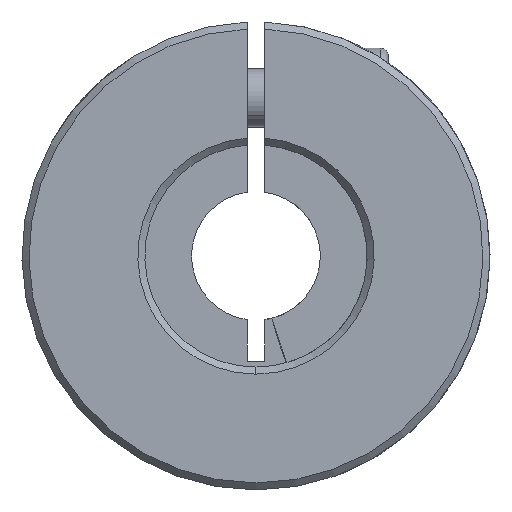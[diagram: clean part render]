
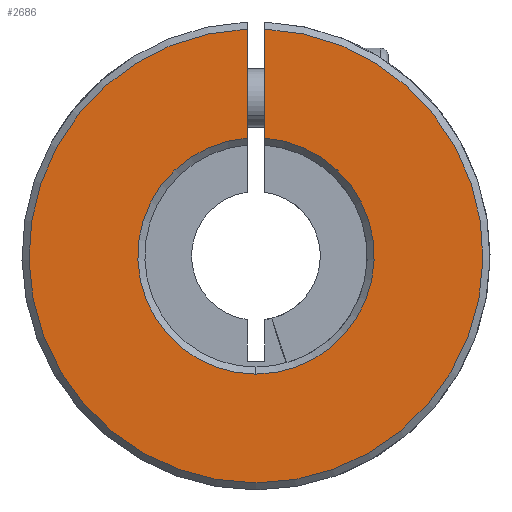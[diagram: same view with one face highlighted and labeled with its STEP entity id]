
A CAD part, front view. The second image highlights one B-rep face of the part: STEP entity #2686.
In plain terms, the highlighted planar face has unit normal (0, -1, 0).
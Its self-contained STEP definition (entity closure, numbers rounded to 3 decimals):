
#47 = DIRECTION ( 'NONE',  ( 0., -1., 0. ) ) ;
#62 = AXIS2_PLACEMENT_3D ( 'NONE', #1266, #5425, #1777 ) ;
#202 = ORIENTED_EDGE ( 'NONE', *, *, #5181, .T. ) ;
#386 = CIRCLE ( 'NONE', #1548, 10.1 ) ;
#488 = VERTEX_POINT ( 'NONE', #3931 ) ;
#588 = VERTEX_POINT ( 'NONE', #2741 ) ;
#998 = DIRECTION ( 'NONE',  ( 0., 0., 1. ) ) ;
#1045 = PLANE ( 'NONE',  #4641 ) ;
#1075 = CARTESIAN_POINT ( 'NONE',  ( 0., -25., 0. ) ) ;
#1106 = DIRECTION ( 'NONE',  ( 0., 1., 0. ) ) ;
#1210 = CARTESIAN_POINT ( 'NONE',  ( 0., -25., -10.1 ) ) ;
#1266 = CARTESIAN_POINT ( 'NONE',  ( 0., -25., 0. ) ) ;
#1540 = CARTESIAN_POINT ( 'NONE',  ( 0.75, -25., 19.385 ) ) ;
#1548 = AXIS2_PLACEMENT_3D ( 'NONE', #3301, #1808, #3660 ) ;
#1777 = DIRECTION ( 'NONE',  ( 0., 0., 1. ) ) ;
#1808 = DIRECTION ( 'NONE',  ( 0., 1., 0. ) ) ;
#1844 = DIRECTION ( 'NONE',  ( 0., 0., -1. ) ) ;
#1975 = VERTEX_POINT ( 'NONE', #5940 ) ;
#2013 = VECTOR ( 'NONE', #1844, 1000. ) ;
#2075 = LINE ( 'NONE', #3926, #2209 ) ;
#2209 = VECTOR ( 'NONE', #2565, 1000. ) ;
#2337 = VERTEX_POINT ( 'NONE', #1540 ) ;
#2470 = ORIENTED_EDGE ( 'NONE', *, *, #3232, .T. ) ;
#2522 = EDGE_LOOP ( 'NONE', ( #2470, #4081, #202, #4073, #4713 ) ) ;
#2565 = DIRECTION ( 'NONE',  ( 0., 0., 1. ) ) ;
#2615 = AXIS2_PLACEMENT_3D ( 'NONE', #3231, #47, #998 ) ;
#2684 = CIRCLE ( 'NONE', #62, 10.1 ) ;
#2686 = ADVANCED_FACE ( 'NONE', ( #2946 ), #1045, .F. ) ;
#2724 = LINE ( 'NONE', #4410, #2013 ) ;
#2741 = CARTESIAN_POINT ( 'NONE',  ( -0.75, -25., 10.072 ) ) ;
#2946 = FACE_OUTER_BOUND ( 'NONE', #2522, .T. ) ;
#3231 = CARTESIAN_POINT ( 'NONE',  ( 0., -25., 0. ) ) ;
#3232 = EDGE_CURVE ( 'NONE', #2337, #1975, #2724, .T. ) ;
#3301 = CARTESIAN_POINT ( 'NONE',  ( 0., -25., 0. ) ) ;
#3634 = EDGE_CURVE ( 'NONE', #588, #488, #2075, .T. ) ;
#3660 = DIRECTION ( 'NONE',  ( 0., 0., 1. ) ) ;
#3669 = EDGE_CURVE ( 'NONE', #1975, #5682, #2684, .T. ) ;
#3926 = CARTESIAN_POINT ( 'NONE',  ( -0.75, -25., -9. ) ) ;
#3931 = CARTESIAN_POINT ( 'NONE',  ( -0.75, -25., 19.385 ) ) ;
#4073 = ORIENTED_EDGE ( 'NONE', *, *, #3634, .T. ) ;
#4081 = ORIENTED_EDGE ( 'NONE', *, *, #3669, .T. ) ;
#4357 = DIRECTION ( 'NONE',  ( 0., 0., 1. ) ) ;
#4410 = CARTESIAN_POINT ( 'NONE',  ( 0.75, -25., -9. ) ) ;
#4641 = AXIS2_PLACEMENT_3D ( 'NONE', #1075, #1106, #4357 ) ;
#4713 = ORIENTED_EDGE ( 'NONE', *, *, #5850, .T. ) ;
#5181 = EDGE_CURVE ( 'NONE', #5682, #588, #386, .T. ) ;
#5425 = DIRECTION ( 'NONE',  ( 0., 1., 0. ) ) ;
#5682 = VERTEX_POINT ( 'NONE', #1210 ) ;
#5809 = CIRCLE ( 'NONE', #2615, 19.4 ) ;
#5850 = EDGE_CURVE ( 'NONE', #488, #2337, #5809, .T. ) ;
#5940 = CARTESIAN_POINT ( 'NONE',  ( 0.75, -25., 10.072 ) ) ;
